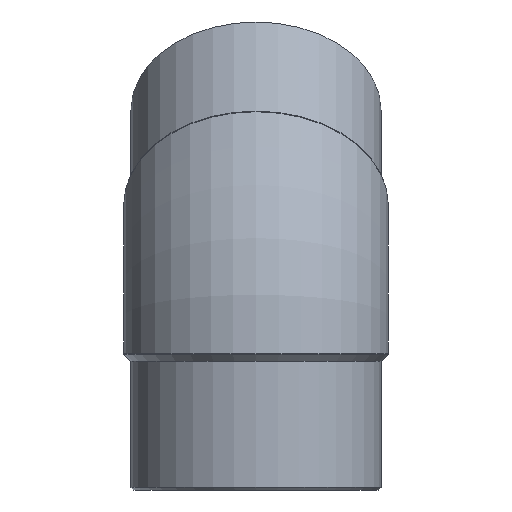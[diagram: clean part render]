
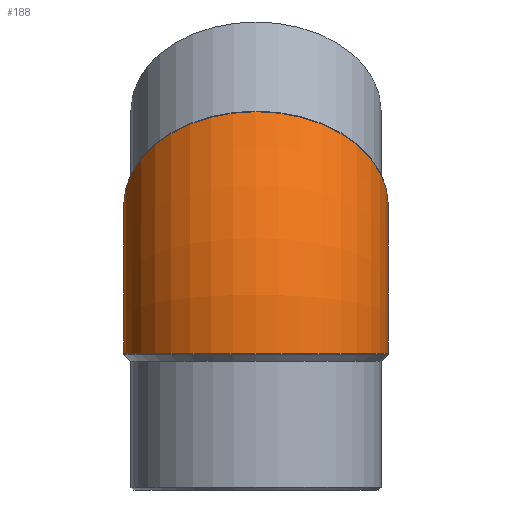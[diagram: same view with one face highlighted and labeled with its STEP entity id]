
A CAD part, left-side view. The second image highlights one B-rep face of the part: STEP entity #188.
In plain terms, the highlighted toroidal (fillet/blend) face has major radius 234.179 mm and minor radius 148 mm.
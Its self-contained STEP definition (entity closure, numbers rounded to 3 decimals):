
#20=TOROIDAL_SURFACE('',#225,234.179,148.);
#53=ORIENTED_EDGE('',*,*,#86,.F.);
#54=ORIENTED_EDGE('',*,*,#87,.T.);
#86=EDGE_CURVE('',#104,#104,#118,.F.);
#87=EDGE_CURVE('',#105,#105,#119,.F.);
#104=VERTEX_POINT('',#347);
#105=VERTEX_POINT('',#350);
#118=CIRCLE('',#224,148.);
#119=CIRCLE('',#226,148.);
#136=EDGE_LOOP('',(#53));
#137=EDGE_LOOP('',(#54));
#163=FACE_BOUND('',#136,.T.);
#164=FACE_BOUND('',#137,.T.);
#188=ADVANCED_FACE('',(#163,#164),#20,.T.);
#224=AXIS2_PLACEMENT_3D('',#346,#270,#271);
#225=AXIS2_PLACEMENT_3D('',#348,#272,#273);
#226=AXIS2_PLACEMENT_3D('',#349,#274,#275);
#270=DIRECTION('',(-0.707,0.,-0.707));
#271=DIRECTION('',(0.707,0.,-0.707));
#272=DIRECTION('',(0.,1.,0.));
#273=DIRECTION('',(0.,0.,1.));
#274=DIRECTION('',(0.,0.,-1.));
#275=DIRECTION('',(1.,0.,0.));
#346=CARTESIAN_POINT('',(68.589,0.,68.589));
#347=CARTESIAN_POINT('',(173.241,0.,-36.062));
#348=CARTESIAN_POINT('',(234.179,0.,-97.));
#349=CARTESIAN_POINT('',(0.,0.,-97.));
#350=CARTESIAN_POINT('',(148.,0.,-97.));
